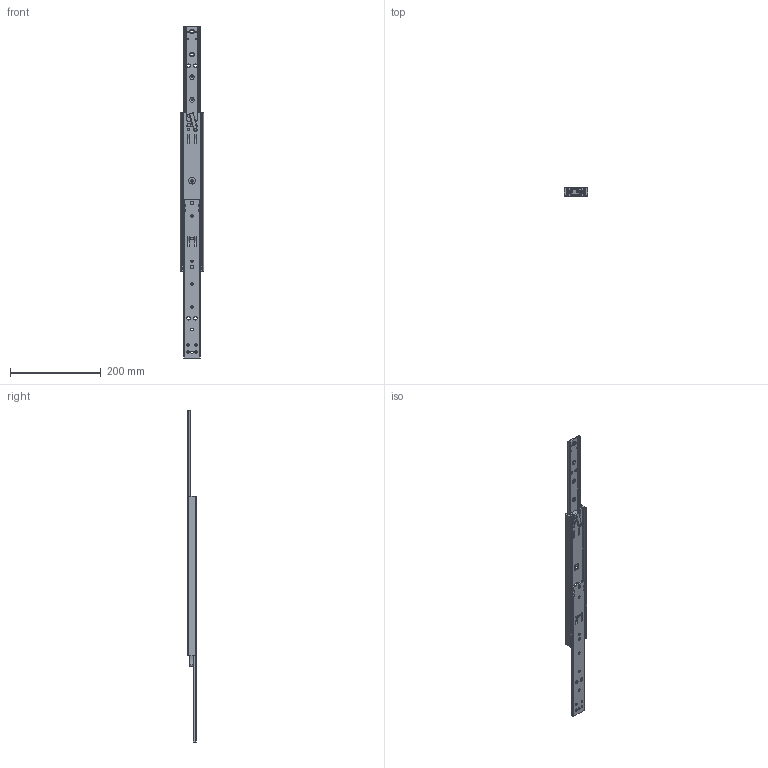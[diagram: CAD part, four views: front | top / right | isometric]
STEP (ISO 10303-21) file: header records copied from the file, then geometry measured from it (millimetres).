
FILE_DESCRIPTION (( 'STEP AP214' ), '1' );
FILE_NAME ('220-350-open.STEP', '2024-08-20T10:49:50', ( '' ), ( '' ), 'SwSTEP 2.0', 'SolidWorks 2024', '' );
FILE_SCHEMA (( 'AUTOMOTIVE_DESIGN' ));
Length unit declared in the file: millimetre
Products named in the file (12): 61_12284_04_open.STEP_Assem7; 370_002_070_3.STEP_Part40; 61_12274_3.STEP_Part39; 301_000_008_Fitted_3.STEP_Part38; 61_12276_3.STEP_Part44; 400_000_004_3.STEP_Part42; 61_12280_04_Beam Assembled - Stop Raises _1.STEP_Part35; 220-350-open; 61_12278_05_1.STEP_Part43; 61_12279_04_1.STEP_Part34; 61_12282_3.STEP_Part37; 61_13331_Pin Fitted_3.STEP_Part36
Assembly tree (26 placements, depth 3):
  220-350-open
    61_12284_04_open.STEP_Assem7
      61_12279_04_1.STEP_Part34
      61_12280_04_Beam Assembled - Stop Raises _1.STEP_Part35  x2
      61_13331_Pin Fitted_3.STEP_Part36  x4
      61_12282_3.STEP_Part37
      301_000_008_Fitted_3.STEP_Part38  x2
      61_12274_3.STEP_Part39
      370_002_070_3.STEP_Part40
      400_000_004_3.STEP_Part42  x8
      61_12278_05_1.STEP_Part43  x4
      61_12276_3.STEP_Part44
Bounding box: 50.7 x 19.75 x 730 mm (x, y, z)
Volume: 202367.1 mm3; surface area: 140846.7 mm2
Topology: 25 solids, 25 shells, 1189 faces, 3073 edges, 1904 vertices
Faces by surface type: cylinder 526, plane 271, sphere 193, torus 77, cone 76, bspline 46
Entity records: 27881 total; most frequent: CARTESIAN_POINT 8635, DIRECTION 4124, ORIENTED_EDGE 3918, EDGE_CURVE 1959, AXIS2_PLACEMENT_3D 1642, VERTEX_POINT 1209, CIRCLE 889, EDGE_LOOP 870
